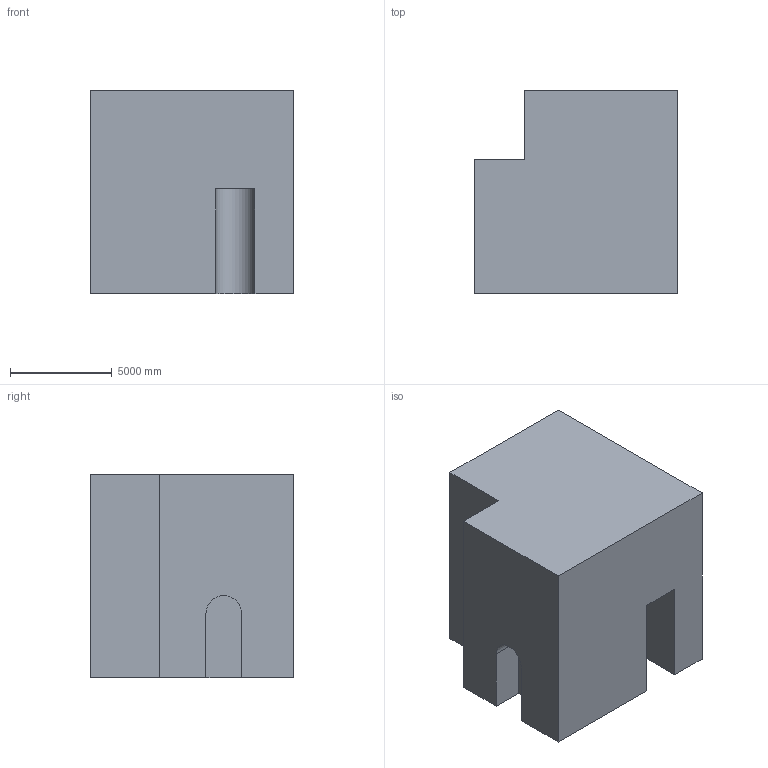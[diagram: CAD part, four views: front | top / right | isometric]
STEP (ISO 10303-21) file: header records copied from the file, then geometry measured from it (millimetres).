
FILE_DESCRIPTION (( 'STEP AP203' ), '1' );
FILE_NAME ('61.STEP', '2022-08-31T11:20:48', ( 'user' ), ( '' ), 'SwSTEP 2.0', 'SolidWorks 2021', '' );
FILE_SCHEMA (( 'CONFIG_CONTROL_DESIGN' ));
Length unit declared in the file: centimetre
Products named in the file (1): 61
Bounding box: 10000 x 10000 x 10000 mm (x, y, z)
Volume: 848607559362.6 mm3; surface area: 656812237.3 mm2
Topology: 1 solids, 1 shells, 22 faces, 57 edges, 38 vertices
Faces by surface type: plane 19, cylinder 3
Entity records: 744 total; most frequent: CARTESIAN_POINT 118, ORIENTED_EDGE 114, DIRECTION 109, EDGE_CURVE 57, LINE 51, VECTOR 51, VERTEX_POINT 38, AXIS2_PLACEMENT_3D 29
